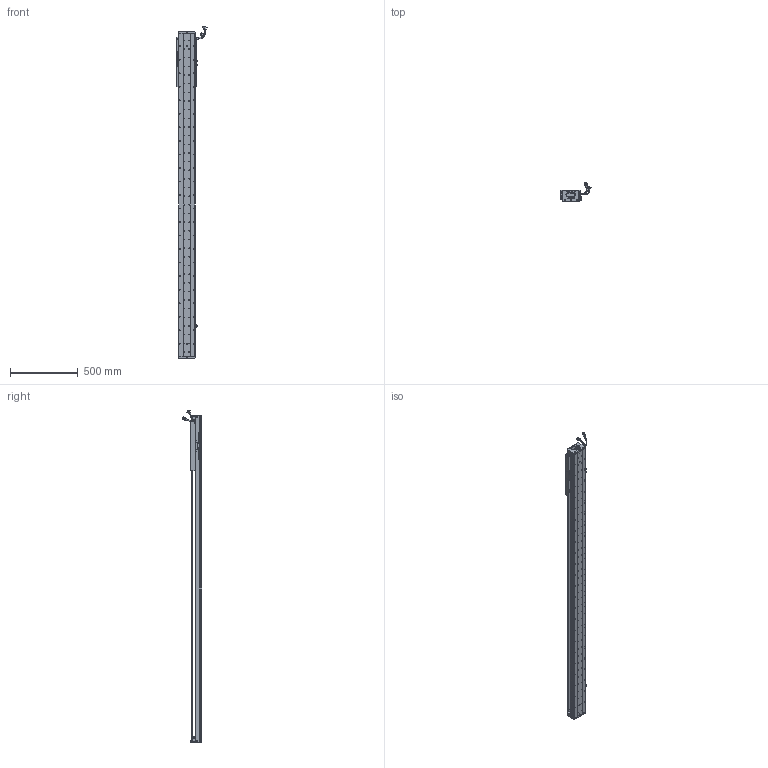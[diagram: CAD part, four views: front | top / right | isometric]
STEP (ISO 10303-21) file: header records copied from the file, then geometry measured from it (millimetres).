
FILE_DESCRIPTION (( 'STEP AP203' ), '1' );
FILE_NAME ('Z5-RY120D-1-L500-B-K.SLDASM_1950.step', '2021-05-17T06:24:20', ( '盈信电脑' ), ( '东莞市道滘镇水果街19号' ), 'SwSTEP 2.0', 'SolidWorks 2016', '' );
FILE_SCHEMA (( 'CONFIG_CONTROL_DESIGN' ));
Length unit declared in the file: millimetre
Products named in the file (37): SCREW-M1.6-1; HARNESS-Part-2; SEAL-Part-1; COVER; 榋妏寠巭燃_暯_M2_2; SHIELDPLATE; SCALE-Part-1; COVER-Part-1; RY100FB-遵嫖萇覜茼え; SCALE-Part-2; SCALE; HARNESS; LABEL-Part-1; HOLDER0; Z5-RY120-500-倰第菁釱_1950; SCREW-M1.7-1; 120-Z-臏賑輸盄裔(21遴); SCREW-M1.6-2; SCREW-M1.7; 080黍杅芛假蚾釱21遴; SEAL; Z-120詩湍傷裔啣; 覜茼ん672; LABEL; Z5-RY120-L500詩湍100mm遵_1950; 140蚥薯蝶輸; Z-RY120D詩湍奻揤裔; Z5-RY120铝滑块（21款）; SCREW-M1.6; HARNESS-Part-1; 672嫖萇羲壽假蚾釱; Z-RY120D詩湍狟揤裔; Z5-RY120D-1-L500-B-K.SLDASM_1950; 140雄赽晤鎢ん堤盄; PSLH080_PSLF2; SCREW-M1.6-3; PBU_SHEET
Assembly tree (43 placements, depth 4):
  Z5-RY120D-1-L500-B-K.SLDASM_1950
    Z5-RY120-500-倰第菁釱_1950
    覜茼ん672  x3
    672嫖萇羲壽假蚾釱  x2
    Z5-RY120铝滑块（21款）
    PSLH080_PSLF2
      SCALE
        SCALE-Part-1
        SCALE-Part-2
      HARNESS
        HARNESS-Part-1
        HARNESS-Part-2
      LABEL
        LABEL-Part-1
      COVER
        COVER-Part-1
      SEAL
        SEAL-Part-1
      榋妏寠巭燃_暯_M2_2
      SHIELDPLATE
      SCREW-M1.7
      SCREW-M1.7-1
      PBU_SHEET
      SCREW-M1.6
      SCREW-M1.6-1
      SCREW-M1.6-2
      SCREW-M1.6-3
      HOLDER0
    080黍杅芛假蚾釱21遴
    120-Z-臏賑輸盄裔(21遴)
    140雄赽晤鎢ん堤盄
    140蚥薯蝶輸  x2
    RY100FB-遵嫖萇覜茼え
    Z-120詩湍傷裔啣  x2
    Z-RY120D詩湍奻揤裔  x2
    Z-RY120D詩湍狟揤裔  x2
    Z5-RY120-L500詩湍100mm遵_1950
Bounding box: 222.88 x 140.94 x 2453.99 mm (x, y, z)
Volume: 6177179.3 mm3; surface area: 2088966.4 mm2
Topology: 38 solids, 38 shells, 3597 faces, 10147 edges, 6404 vertices
Faces by surface type: cylinder 1871, plane 1234, cone 370, torus 69, bspline 53
Entity records: 118764 total; most frequent: CARTESIAN_POINT 35437, ORIENTED_EDGE 17078, DIRECTION 15921, EDGE_CURVE 8539, AXIS2_PLACEMENT_3D 5906, VERTEX_POINT 5524, LINE 4109, VECTOR 4109
